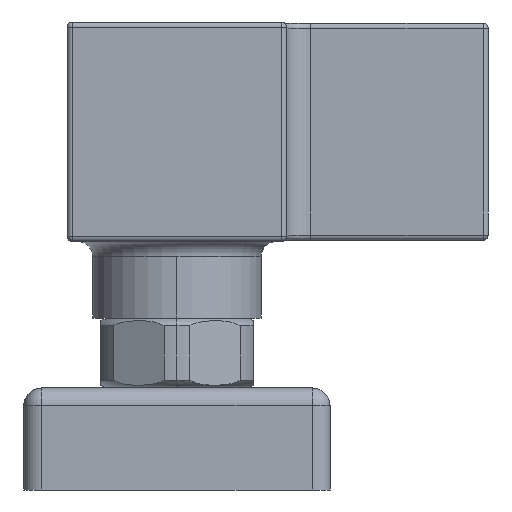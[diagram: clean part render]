
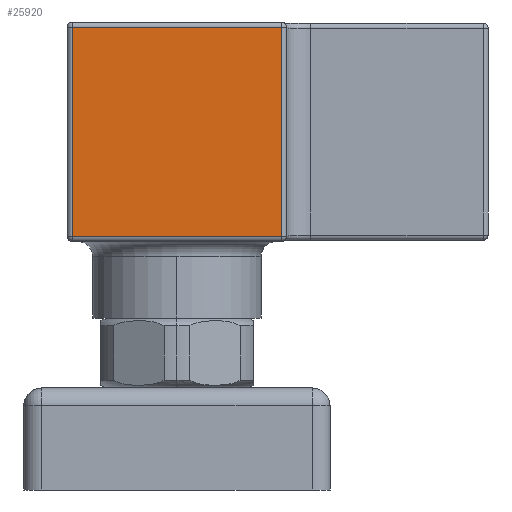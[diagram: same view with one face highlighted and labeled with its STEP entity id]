
A CAD part, left-side view. The second image highlights one B-rep face of the part: STEP entity #25920.
In plain terms, the highlighted planar face has unit normal (-1, 0, 0).
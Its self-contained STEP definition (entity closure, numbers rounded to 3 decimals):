
#25530=CARTESIAN_POINT('',(24.716,180.28,44.9))
;
#25540=DIRECTION('',(1.,0.,0.));
#25550=DIRECTION('',(0.,0.,-1.));
#25560=AXIS2_PLACEMENT_3D('',#25530,#25540,#25550);
#25570=PLANE('',#25560);
#25580=CARTESIAN_POINT('',(24.716,0.,20.5))
;
#25590=DIRECTION('',(0.,-1.,0.));
#25600=VECTOR('',#25590,1.);
#25610=LINE('',#25580,#25600);
#25620=CARTESIAN_POINT('',(24.716,173.03,20.5));
#25630=VERTEX_POINT('',#25620);
#25640=CARTESIAN_POINT('',(24.716,132.03,20.5));
#25650=VERTEX_POINT('',#25640);
#25660=EDGE_CURVE('',#25630,#25650,#25610,.T.);
#25670=ORIENTED_EDGE('',*,*,#25660,.F.);
#25680=CARTESIAN_POINT('',(24.716,132.03,0.));
#25690=DIRECTION('',(0.,0.,-1.));
#25700=VECTOR('',#25690,1.);
#25710=LINE('',#25680,#25700);
#25720=CARTESIAN_POINT('',(24.716,132.03,-20.5));
#25730=VERTEX_POINT('',#25720);
#25740=EDGE_CURVE('',#25650,#25730,#25710,.T.);
#25750=ORIENTED_EDGE('',*,*,#25740,.F.);
#25760=CARTESIAN_POINT('',(24.716,0.,-20.5)
);
#25770=DIRECTION('',(0.,1.,0.));
#25780=VECTOR('',#25770,1.);
#25790=LINE('',#25760,#25780);
#25800=CARTESIAN_POINT('',(24.716,173.03,-20.5));
#25810=VERTEX_POINT('',#25800);
#25820=EDGE_CURVE('',#25730,#25810,#25790,.T.);
#25830=ORIENTED_EDGE('',*,*,#25820,.F.);
#25840=CARTESIAN_POINT('',(24.716,173.03,0.));
#25850=DIRECTION('',(0.,0.,1.));
#25860=VECTOR('',#25850,1.);
#25870=LINE('',#25840,#25860);
#25880=EDGE_CURVE('',#25810,#25630,#25870,.T.);
#25890=ORIENTED_EDGE('',*,*,#25880,.F.);
#25900=EDGE_LOOP('',(#25890,#25830,#25750,#25670));
#25910=FACE_OUTER_BOUND('',#25900,.T.);
#25920=ADVANCED_FACE('',(#25910),#25570,.F.);
